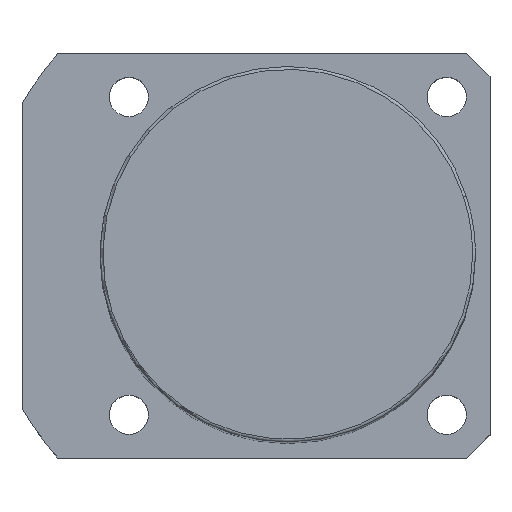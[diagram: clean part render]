
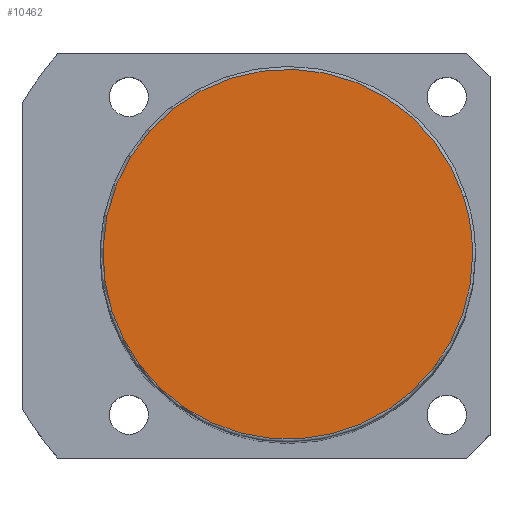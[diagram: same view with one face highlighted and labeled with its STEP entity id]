
A CAD part, top view. The second image highlights one B-rep face of the part: STEP entity #10462.
In plain terms, the highlighted planar face has unit normal (0, 0, 1).
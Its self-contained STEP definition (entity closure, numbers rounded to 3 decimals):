
#10428=CARTESIAN_POINT('',(32.0,0.0,176.0));
#10429=VERTEX_POINT('',#10428);
#10430=CARTESIAN_POINT('',(30.434,9.889,176.0));
#10431=VERTEX_POINT('',#10430);
#10432=CARTESIAN_POINT('',(0.0,0.0,176.0));
#10433=DIRECTION('',(0.0,0.0,1.0));
#10434=DIRECTION('',(1.0,0.0,0.0));
#10435=AXIS2_PLACEMENT_3D('',#10432,#10433,#10434);
#10436=CIRCLE('',#10435,32.0);
#10437=EDGE_CURVE('no 4902',#10429,#10431,#10436,.T.);
#10438=ORIENTED_EDGE('',*,*,#10437,.T.);
#10439=CARTESIAN_POINT('',(-30.434,-9.889,176.0));
#10440=VERTEX_POINT('',#10439);
#10441=CARTESIAN_POINT('',(0.0,0.0,176.0));
#10442=DIRECTION('',(0.0,0.0,1.0));
#10443=DIRECTION('',(1.0,0.0,0.0));
#10444=AXIS2_PLACEMENT_3D('',#10441,#10442,#10443);
#10445=CIRCLE('',#10444,32.0);
#10446=EDGE_CURVE('no 4908',#10431,#10440,#10445,.T.);
#10447=ORIENTED_EDGE('',*,*,#10446,.T.);
#10448=CARTESIAN_POINT('',(0.0,0.0,176.0));
#10449=DIRECTION('',(0.0,0.0,1.0));
#10450=DIRECTION('',(1.0,0.0,0.0));
#10451=AXIS2_PLACEMENT_3D('',#10448,#10449,#10450);
#10452=CIRCLE('',#10451,32.0);
#10453=EDGE_CURVE('no 4912',#10440,#10429,#10452,.T.);
#10454=ORIENTED_EDGE('',*,*,#10453,.T.);
#10455=EDGE_LOOP('',(#10438,#10447,#10454));
#10456=FACE_OUTER_BOUND('',#10455,.T.);
#10457=CARTESIAN_POINT('',(0.0,0.0,176.0));
#10458=DIRECTION('',(0.0,0.0,1.0));
#10459=DIRECTION('',(1.0,0.0,0.0));
#10460=AXIS2_PLACEMENT_3D('',#10457,#10458,#10459);
#10461=PLANE('',#10460);
#10462=ADVANCED_FACE('no 4893',(#10456),#10461,.T.);
